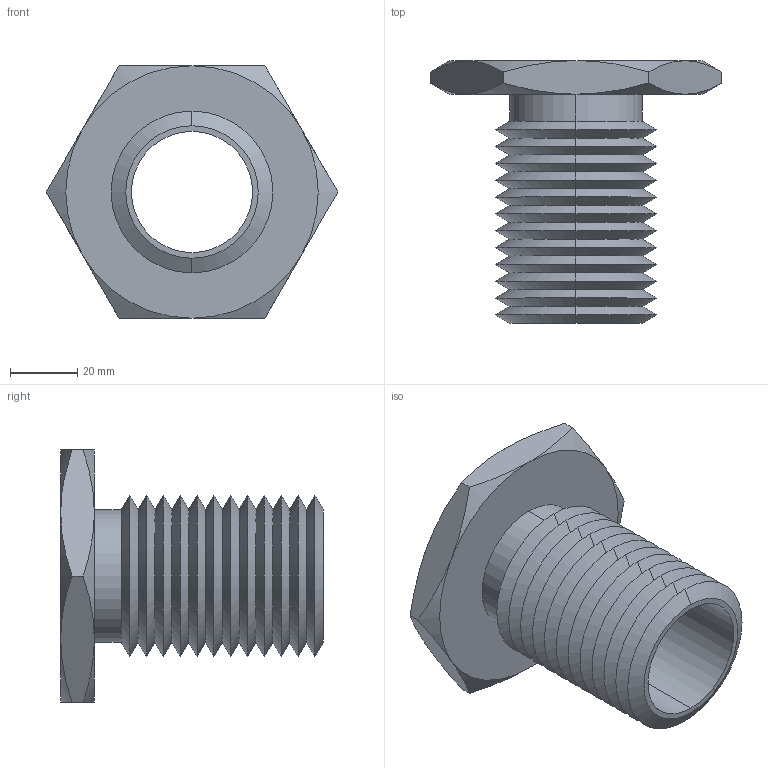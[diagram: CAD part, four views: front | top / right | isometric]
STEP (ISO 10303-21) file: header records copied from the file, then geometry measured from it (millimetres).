
FILE_DESCRIPTION (( 'STEP AP203' ), '1' );
FILE_NAME ('63302.W0048_M36x4.step', '2013-12-08T11:18:43', ( 'User' ), ( '' ), 'SwSTEP 2.0', 'SolidWorks 2009', '' );
FILE_SCHEMA (( 'CONFIG_CONTROL_DESIGN' ));
Length unit declared in the file: millimetre
Products named in the file (1): 63302.W0048_M36x4
Bounding box: 86.6 x 78 x 75 mm (x, y, z)
Volume: 67317.8 mm3; surface area: 35877.7 mm2
Topology: 1 solids, 1 shells, 75 faces, 154 edges, 82 vertices
Faces by surface type: cone 62, plane 9, cylinder 4
Entity records: 2139 total; most frequent: CARTESIAN_POINT 496, DIRECTION 352, ORIENTED_EDGE 308, EDGE_CURVE 154, AXIS2_PLACEMENT_3D 146, VERTEX_POINT 82, EDGE_LOOP 78, ADVANCED_FACE 75
